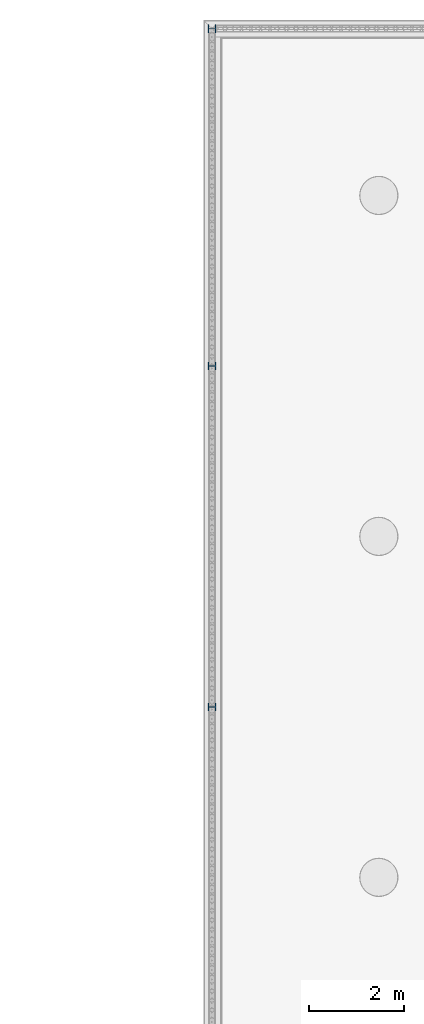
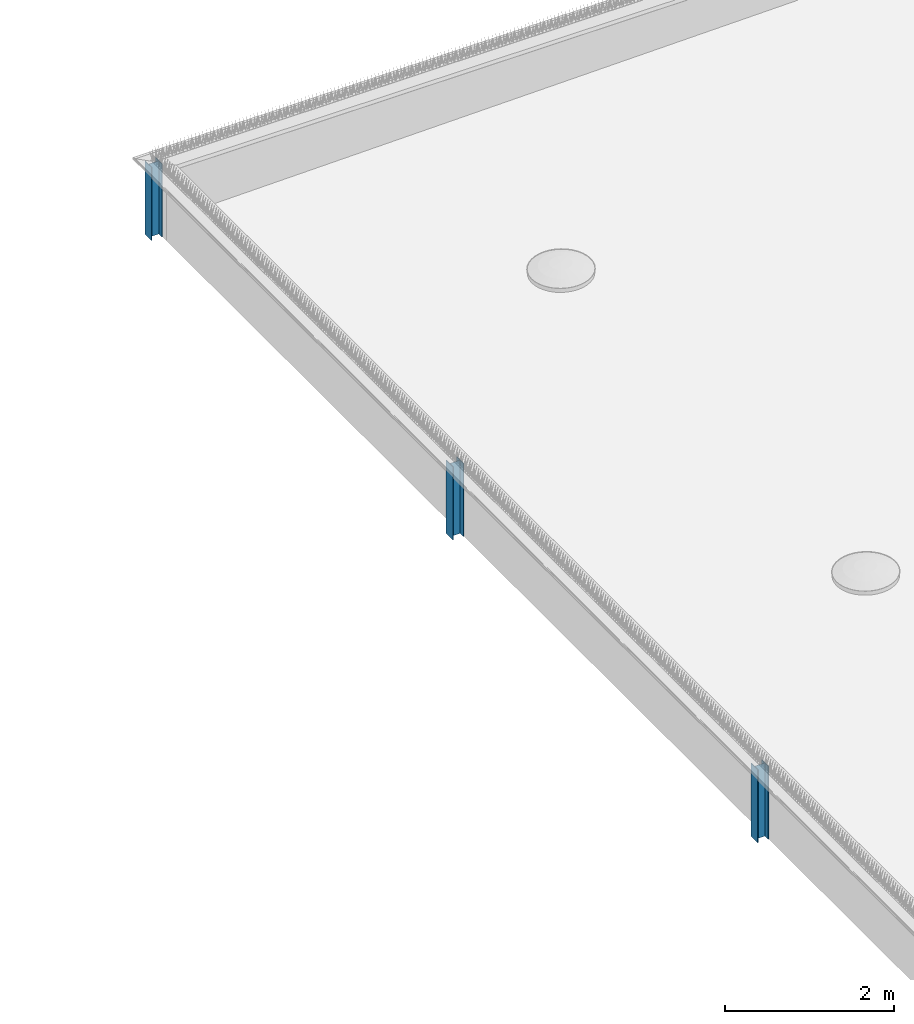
# One storey, part 15 of 81: 3 columns.
"""IFC2X3 building model written with IfcOpenShell, lengths in millimetres."""

from ifc_helpers import new_model, entity, si_unit, converted_unit, derived_unit, money_unit, direction, frame, origin_with_axes, place, context, subcontext, project, spatial, faceted_brep, material, type_object, element, save


model = new_model("IFC2X3")

# Units and contexts
model_context = context("Model", 3, precision=0.01, world=origin_with_axes(), true_north=direction((0.0, 1.0)))
body_context = subcontext(model_context, "Body", "Model", "MODEL_VIEW")
ifc_project = project(units=[si_unit("LENGTHUNIT", "METRE", prefix="MILLI"), si_unit("AREAUNIT", "SQUARE_METRE"), si_unit("VOLUMEUNIT", "CUBIC_METRE"), converted_unit("PLANEANGLEUNIT", "DEGREE", entity("IfcPlaneAngleMeasure", 0.0174532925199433), si_unit("PLANEANGLEUNIT", "RADIAN"), dimensions=[0, 0, 0, 0, 0, 0, 0]), money_unit("EUR"), converted_unit("TIMEUNIT", "Year", entity("IfcTimeMeasure", 31557600.0), si_unit("TIMEUNIT", "SECOND"), dimensions=[0, 0, 1, 0, 0, 0, 0]), si_unit("MASSUNIT", "GRAM", prefix="KILO"), si_unit("THERMODYNAMICTEMPERATUREUNIT", "DEGREE_CELSIUS"), si_unit("LUMINOUSINTENSITYUNIT", "LUMEN"), si_unit("ENERGYUNIT", "JOULE", prefix="MEGA"), derived_unit("THERMALCONDUCTANCEUNIT", [(si_unit("POWERUNIT", "WATT"), 1), (si_unit("LENGTHUNIT", "METRE"), -1), (si_unit("THERMODYNAMICTEMPERATUREUNIT", "KELVIN"), -1)]), derived_unit("SPECIFICHEATCAPACITYUNIT", [(si_unit("ENERGYUNIT", "JOULE"), 1), (si_unit("MASSUNIT", "GRAM", prefix="KILO"), -1), (si_unit("THERMODYNAMICTEMPERATUREUNIT", "KELVIN"), -1)]), derived_unit("MASSDENSITYUNIT", [(si_unit("MASSUNIT", "GRAM", prefix="KILO"), 1), (si_unit("VOLUMEUNIT", "CUBIC_METRE"), -1)])], contexts=[model_context])

# Site, building, storey
site_placement = place(None, origin_with_axes())
site = spatial("IfcSite", under=ifc_project, at=site_placement, Name="Site", CompositionType="ELEMENT")
building_placement = place(site_placement, origin_with_axes())
building = spatial("IfcBuilding", under=site, at=building_placement, Name="Naam gebouw", CompositionType="ELEMENT")
storey_placement = place(building_placement, frame((0.0, 0.0, 15320.0), z_axis=(0.0, 0.0, 1.0), x_axis=(1.0, 0.0, 0.0)))
storey = spatial("IfcBuildingStorey", under=building, at=storey_placement, Name="01 dak", CompositionType="ELEMENT", Elevation=15320.0)

# Columns
ifc_material = material(Name="Metaal - Staal C")
column_type = type_object("IfcColumnType", Name="HEA160 160 x 152", PredefinedType="COLUMN")
for number, where, z_axis, x_axis, name in (
    (1, (83776.0, 105200.0, -400.0393597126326), (0.0, 0.0, 1.0), (0.0, 1.0, 0.0), "HEA160"),
    (2, (83776.0, 112400.0, -400.0393597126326), (0.0, 0.0, 1.0), (0.0, 1.0, 0.0), "HEA160"),
    (3, (83775.99999999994, 119520.0, -400.0393597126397), (0.0, 0.0, 1.0), (0.0, 1.0, 0.0), "HEA160"),
):
    element("IfcColumn", number, at=place(storey_placement, frame(where, z_axis=z_axis, x_axis=x_axis)), inside=storey, type_object=column_type, material=ifc_material, Name=name, ObjectType="COLUMN", context=body_context, shape_type="Brep", body=[
        faceted_brep([(-79.9999999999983, 75.9999999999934, 1055.0), (-79.9999999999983, 75.9999999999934, 0.0), (-79.9999999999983, 66.99999999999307, 0.0), (-79.9999999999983, 66.99999999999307, 1055.0), (79.9999999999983, 75.9999999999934, 1055.0), (79.9999999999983, 75.9999999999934, 0.0), (79.9999999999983, 66.99999999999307, 0.0), (3.000000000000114, 66.99999999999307, 0.0), (3.000000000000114, -66.99999999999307, 0.0), (79.9999999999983, -66.99999999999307, 0.0), (79.9999999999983, -75.9999999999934, 0.0), (-79.9999999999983, -75.9999999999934, 0.0), (-79.9999999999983, -66.99999999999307, 0.0), (-3.000000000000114, -66.99999999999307, 0.0), (-3.000000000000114, 66.99999999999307, 0.0), (-3.000000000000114, 66.99999999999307, 1055.0), (-3.000000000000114, -66.99999999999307, 1055.0), (-79.9999999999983, -66.99999999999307, 1055.0), (-79.9999999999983, -75.9999999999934, 1055.0), (79.9999999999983, -75.9999999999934, 1055.0), (79.9999999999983, -66.99999999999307, 1055.0), (3.000000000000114, -66.99999999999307, 1055.0), (3.000000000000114, 66.99999999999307, 1055.0), (79.9999999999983, 66.99999999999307, 1055.0)], [[[0, 1, 2, 3]], [[4, 5, 1, 0]], [[2, 1, 5, 6, 7, 8, 9, 10, 11, 12, 13, 14]], [[3, 2, 14, 15]], [[4, 0, 3, 15, 16, 17, 18, 19, 20, 21, 22, 23]], [[23, 6, 5, 4]], [[22, 7, 6, 23]], [[21, 8, 7, 22]], [[20, 9, 8, 21]], [[19, 10, 9, 20]], [[18, 11, 10, 19]], [[17, 12, 11, 18]], [[16, 13, 12, 17]], [[15, 14, 13, 16]]]),
    ])

save(model, "model.ifc")
